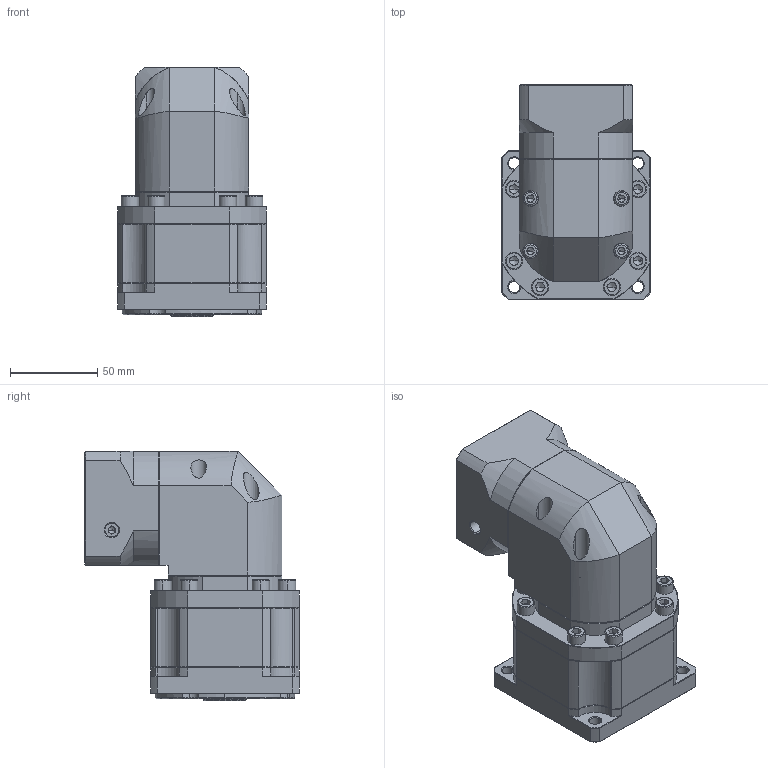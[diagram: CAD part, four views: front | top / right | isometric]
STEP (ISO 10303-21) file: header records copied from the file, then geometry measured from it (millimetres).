
FILE_DESCRIPTION (( 'STEP AP214' ), '1' );
FILE_NAME ('ZBR090-K15-L2-P2-11-60-75-M5.step', '2023-08-19T04:01:05', ( '' ), ( '' ), 'SwSTEP 2.0', 'SolidWorks 2016', '' );
FILE_SCHEMA (( 'AUTOMOTIVE_DESIGN' ));
Length unit declared in the file: millimetre
Products named in the file (1): ZBR090-K15-L2-P2-11-60-75-M5
Bounding box: 85 x 122.7 x 142.5 mm (x, y, z)
Volume: 797517.3 mm3; surface area: 99413.5 mm2
Topology: 5 solids, 5 shells, 2388 faces, 6333 edges, 4046 vertices
Faces by surface type: plane 1171, bspline 428, cylinder 418, cone 363, torus 8
Entity records: 123764 total; most frequent: CARTESIAN_POINT 41466, ORIENTED_EDGE 12578, DIRECTION 10122, EDGE_CURVE 6289, VERTEX_POINT 4046, VECTOR 3990, LINE 3990, AXIS2_PLACEMENT_3D 3066
